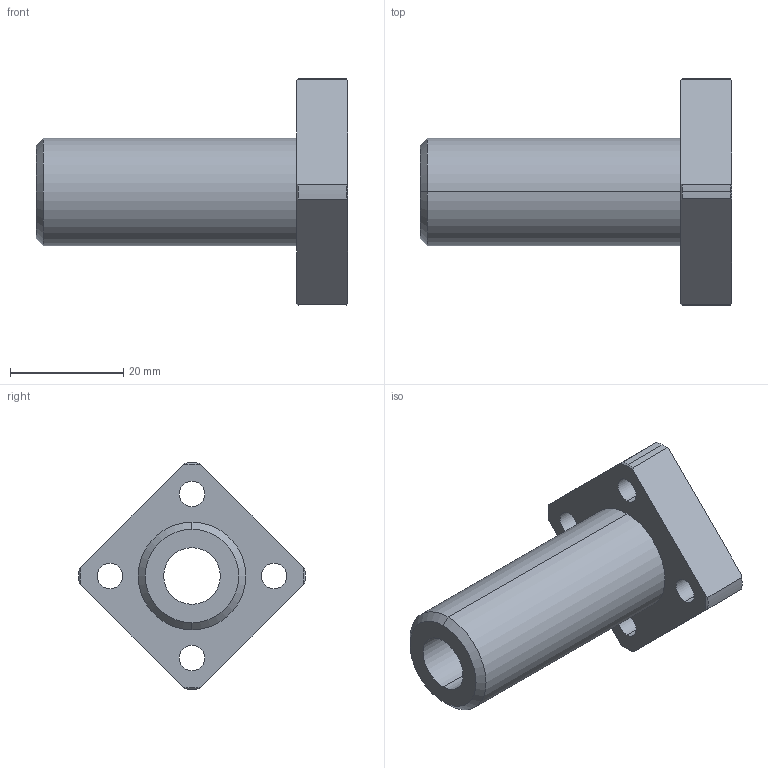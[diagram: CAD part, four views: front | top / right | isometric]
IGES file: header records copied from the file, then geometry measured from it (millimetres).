
Start section: 3D InterOp IGES (Version 21 0 1), Spatial Corp. Copyright (c) 1999-2007.
Global section: file name: DFPJ10.igs; native system: Spatial Corp.; preprocessor: 3D InterOp GENERIC/IGES 3.0; author: Noname; organization: Noname; date: 20220324.140606; units: millimetre
Bounding box: 55 x 39.99 x 40 mm (x, y, z)
Surface area: 7637.4 mm2 (no closed solid volume)
Topology: 0 solids, 0 shells, 48 faces, 240 edges, 240 vertices
Faces by surface type: revolution 37, extrusion 11
